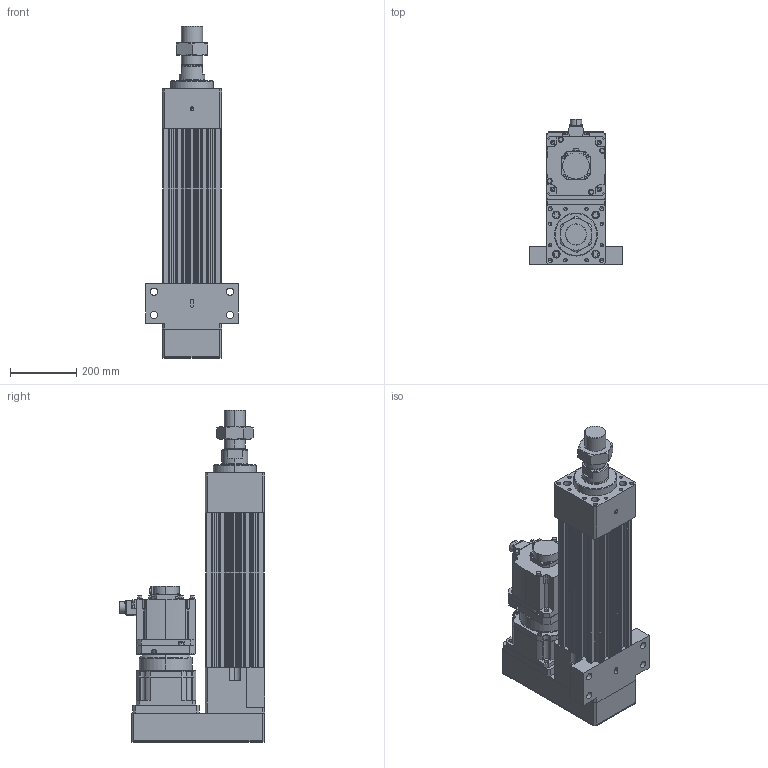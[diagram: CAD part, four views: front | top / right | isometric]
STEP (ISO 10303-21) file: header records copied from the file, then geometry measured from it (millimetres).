
FILE_DESCRIPTION (( 'STEP AP203' ), '1' );
FILE_NAME ('HES180HS-P150-W050G00-M-FFC.STEP', '2023-02-01T07:04:47', ( 'tms' ), ( '' ), 'SwSTEP 2.0', 'SolidWorks 2013', '' );
FILE_SCHEMA (( 'CONFIG_CONTROL_DESIGN' ));
Length unit declared in the file: millimetre
Products named in the file (9): HES180-P150-G180-FFC; AB180-003[HG-SR702B]; AB1801; P0403600401; HG-SR502; M64X2.0P; HES180 ROD M ST150; P1301600001; HES180HS-P150-W050G00-M-FFC
Assembly tree (8 placements, depth 3):
  HES180HS-P150-W050G00-M-FFC
    HES180-P150-G180-FFC
    HES180 ROD M ST150
    M64X2.0P
    AB180-003[HG-SR702B]
      AB1801
      P1301600001
      P0403600401
    HG-SR502
Bounding box: 280 x 438.85 x 1002 mm (x, y, z)
Volume: 24804539.9 mm3; surface area: 2046104.3 mm2
Topology: 4 solids, 19 shells, 1474 faces, 3821 edges, 2463 vertices
Faces by surface type: cylinder 686, plane 553, cone 168, bspline 63, torus 4
Entity records: 53682 total; most frequent: CARTESIAN_POINT 16162, DIRECTION 7905, ORIENTED_EDGE 7498, EDGE_CURVE 3773, AXIS2_PLACEMENT_3D 2986, VERTEX_POINT 2463, LINE 1933, VECTOR 1933
